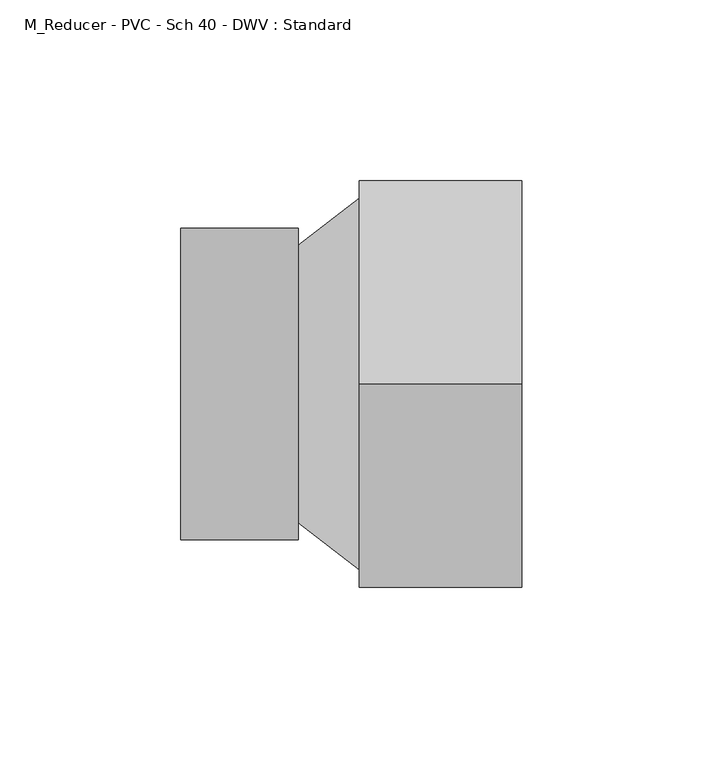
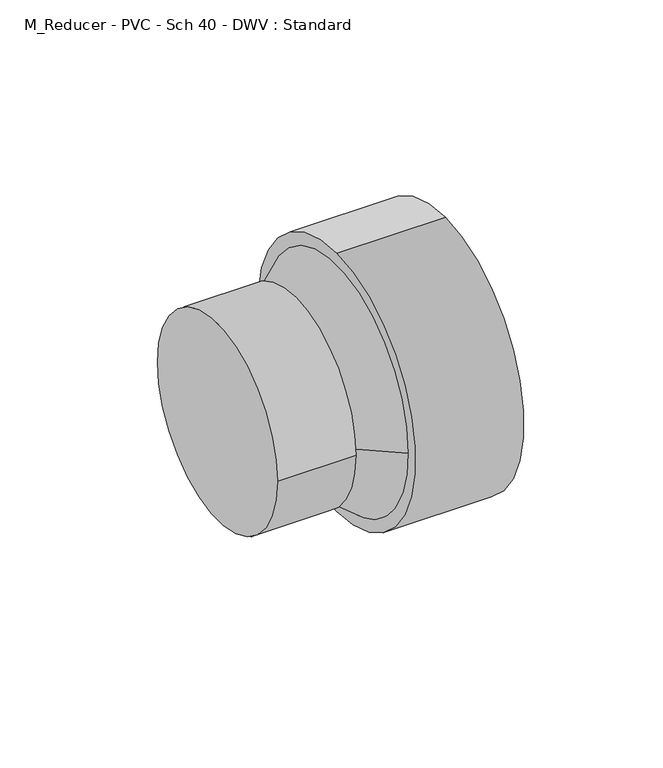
"""IFC4 building model written with IfcOpenShell, lengths in millimetres: pipe fitting geometry, M_Reducer - PVC - Sch 40 - DWV : Standard."""

from ifc_helpers import new_model, si_unit, frame, origin, place, context, project, spatial, polyline, circle_curve, source, transform, mapped, element, save
from ifc_brep_helpers import plane_surface, cylinder_surface, revolved_surface, advanced_brep


def m_reducer_pvc_sch_40_dwv_standard_93e50943(model_context):
    return source(origin(), model_context, "Body", "AdvancedBrep", [
        advanced_brep(
        [(0.0, -43.0871094, 0.0), (0.0, 43.0871094, 0.0), (32.5, -43.0871094, 0.0), (32.5, 43.0871094, 0.0), (32.5, 38.3640625, 0.0), (32.5, -38.3640625, 0.0), (49.4460938, 51.3640625, 0.0), (49.4460937, -51.3640625, 0.0), (49.4460938, 0.0, 56.5871094), (49.4460938, 0.0, -56.5871094), (94.4460938, 0.0, 56.5871094), (94.4460938, 0.0, -56.5871094)],
        [
            (0, 1, circle_curve(frame((0.0, 0.0, 0.0), z_axis=(-1.0, 0.0, 0.0), x_axis=(0.0, 1.0, 0.0)), 43.0871094)),
            (1, 0, circle_curve(frame((0.0, 0.0, 0.0), z_axis=(-1.0, 0.0, 0.0), x_axis=(0.0, 1.0, 0.0)), 43.0871094)),
            (2, 3, circle_curve(frame((32.5, 0.0, 0.0), z_axis=(1.0, 0.0, 0.0), x_axis=(0.0, 1.0, 0.0)), 43.0871094)),
            (3, 2, circle_curve(frame((32.5, 0.0, 0.0), z_axis=(1.0, 0.0, 0.0), x_axis=(0.0, 1.0, 0.0)), 43.0871094)),
            (4, 5, circle_curve(frame((32.5, 0.0, 0.0), z_axis=(-1.0, 0.0, 0.0), x_axis=(0.0, -1.0, 0.0)), 38.3640625)),
            (5, 4, circle_curve(frame((32.5, 0.0, 0.0), z_axis=(-1.0, 0.0, 0.0), x_axis=(0.0, 1.0, 0.0)), 38.3640625)),
            (0, 2),
            (3, 1),
            (4, 6),
            (6, 7, circle_curve(frame((49.4460938, 0.0, 0.0), z_axis=(-1.0, 0.0, 0.0), x_axis=(0.0, -1.0, 0.0)), 51.3640625)),
            (7, 5),
            (7, 6, circle_curve(frame((49.4460938, 0.0, 0.0), z_axis=(-1.0, 0.0, 0.0), x_axis=(0.0, 1.0, 0.0)), 51.3640625)),
            (8, 9, circle_curve(frame((49.4460938, 0.0, 0.0), z_axis=(-1.0, 0.0, 0.0), x_axis=(0.0, 0.0, -1.0)), 56.5871094)),
            (9, 8, circle_curve(frame((49.4460938, 0.0, 0.0), z_axis=(-1.0, 0.0, 0.0), x_axis=(0.0, 0.0, -1.0)), 56.5871094)),
            (10, 11, circle_curve(frame((94.4460938, 0.0, 0.0), z_axis=(1.0, 0.0, 0.0), x_axis=(0.0, 0.0, -1.0)), 56.5871094)),
            (11, 10, circle_curve(frame((94.4460938, 0.0, 0.0), z_axis=(1.0, 0.0, 0.0), x_axis=(0.0, 0.0, -1.0)), 56.5871094)),
            (8, 10),
            (11, 9),
        ],
        [
            plane_surface(frame((0.0, 0.0, 0.0), z_axis=(-1.0, 0.0, 0.0), x_axis=(0.0, 0.0, 1.0))),
            plane_surface(frame((32.5, 0.0, 0.0), z_axis=(1.0, 0.0, 0.0), x_axis=(0.0, 0.0, 1.0))),
            cylinder_surface(frame((0.0, 0.0, 0.0), z_axis=(-1.0, 0.0, 0.0), x_axis=(0.0, 1.0, 0.0)), 43.0871094),
            revolved_surface(polyline([(32.5, 38.364062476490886, 0.0), (49.44609379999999, 51.3640625, 0.0)]), (-17.5093077, 0.0, 0.0), (1.0, 0.0, 0.0)),
            plane_surface(frame((49.4460938, 0.0, 0.0), z_axis=(-1.0, 0.0, 0.0), x_axis=(0.0, 1.0, 0.0))),
            plane_surface(frame((94.4460938, 0.0, 0.0), z_axis=(1.0, 0.0, 0.0), x_axis=(0.0, 1.0, 0.0))),
            cylinder_surface(frame((49.4460938, 0.0, 0.0), z_axis=(-1.0, 0.0, 0.0), x_axis=(0.0, 0.0, -1.0)), 56.5871094),
        ],
        [
            (0, [[1, 2]]),
            (1, [[3, 4], [5, 6]]),
            (2, [[-1, 7, -4, 8]]),
            (2, [[-2, -8, -3, -7]]),
            (3, [[9, 10, 11, -5]]),
            (3, [[-9, -6, -11, 12]]),
            (4, [[13, 14], [-10, -12]]),
            (5, [[15, 16]]),
            (6, [[-13, 17, -16, 18]]),
            (6, [[-14, -18, -15, -17]]),
        ],
    ),
    ])


if __name__ == "__main__":
    model = new_model("IFC4")
    model_context = context("Model", 3, world=origin())
    ifc_project = project(units=[si_unit("LENGTHUNIT", "METRE", prefix="MILLI")], contexts=[model_context])
    site = spatial("IfcSite", under=ifc_project)
    building = spatial("IfcBuilding", under=site)
    placement = place(None, origin())
    m_reducer_pvc_sch_40_dwv_standard_shape = m_reducer_pvc_sch_40_dwv_standard_93e50943(model_context)
    element("IfcPipeFitting", 1, ObjectType="M_Reducer - PVC - Sch 40 - DWV : Standard", at=placement, inside=building, context=model_context, shape_type="MappedRepresentation", body=[
        mapped(m_reducer_pvc_sch_40_dwv_standard_shape, transform((0.0, 0.0, 0.0), x_axis=(1.0, 0.0, 0.0), y_axis=(0.0, 1.0, 0.0), z_axis=(0.0, 0.0, 1.0))),
    ])
    save(model, "model.ifc")
